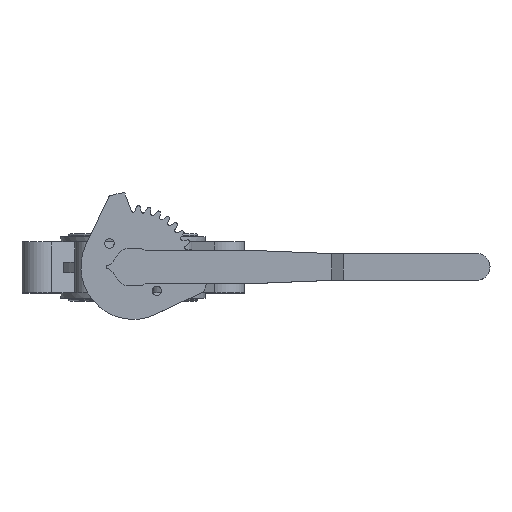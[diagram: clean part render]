
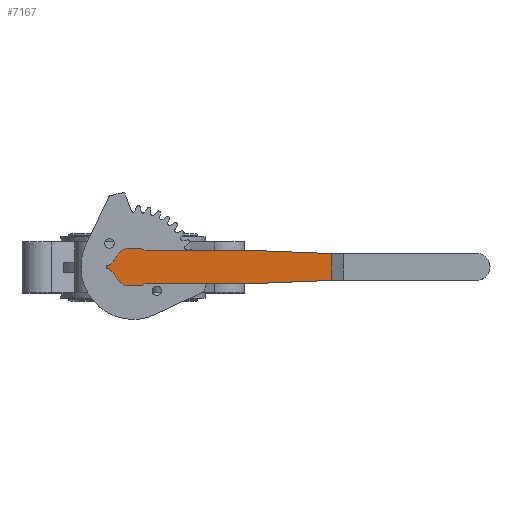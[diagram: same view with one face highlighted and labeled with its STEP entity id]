
A CAD part, top view. The second image highlights one B-rep face of the part: STEP entity #7167.
In plain terms, the highlighted planar face has unit normal (0, 0, 1) as drawn and (0, 0, -1) by its records, which use the part's own axes.
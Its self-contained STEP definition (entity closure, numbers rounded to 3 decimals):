
#53 = CARTESIAN_POINT ( 'NONE',  ( 148., 10., 5. ) ) ;
#168 = DIRECTION ( 'NONE',  ( -1., 0., 0. ) ) ;
#217 = ORIENTED_EDGE ( 'NONE', *, *, #10713, .F. ) ;
#367 = CARTESIAN_POINT ( 'NONE',  ( 148., -47.763, 5. ) ) ;
#373 = VERTEX_POINT ( 'NONE', #4630 ) ;
#485 = CARTESIAN_POINT ( 'NONE',  ( -5.385, -14., 5. ) ) ;
#510 = LINE ( 'NONE', #5273, #4837 ) ;
#619 = DIRECTION ( 'NONE',  ( -1., 0., 0. ) ) ;
#633 = ORIENTED_EDGE ( 'NONE', *, *, #8905, .T. ) ;
#792 = ORIENTED_EDGE ( 'NONE', *, *, #11005, .F. ) ;
#1023 = CARTESIAN_POINT ( 'NONE',  ( 5.385, -14., 5. ) ) ;
#1070 = AXIS2_PLACEMENT_3D ( 'NONE', #8643, #10267, #4266 ) ;
#1124 = VECTOR ( 'NONE', #5857, 1000. ) ;
#1132 = EDGE_CURVE ( 'NONE', #8645, #8624, #3430, .T. ) ;
#1263 = ORIENTED_EDGE ( 'NONE', *, *, #6951, .T. ) ;
#1298 = CARTESIAN_POINT ( 'NONE',  ( 5.385, 14., 5. ) ) ;
#1369 = EDGE_CURVE ( 'NONE', #5910, #11159, #5741, .T. ) ;
#1455 = DIRECTION ( 'NONE',  ( -1., 0., 0. ) ) ;
#1497 = CARTESIAN_POINT ( 'NONE',  ( -3.816, 8.184, 5. ) ) ;
#1572 = CARTESIAN_POINT ( 'NONE',  ( -13.831, -5.805, 5. ) ) ;
#1586 = ORIENTED_EDGE ( 'NONE', *, *, #4187, .F. ) ;
#1674 = CARTESIAN_POINT ( 'NONE',  ( -19.423, 0.906, 5. ) ) ;
#1750 = PLANE ( 'NONE',  #1070 ) ;
#1787 = CIRCLE ( 'NONE', #9656, 1. ) ;
#1790 = DIRECTION ( 'NONE',  ( 0., 0., -1. ) ) ;
#1941 = DIRECTION ( 'NONE',  ( 0., 0., -1. ) ) ;
#2009 = CARTESIAN_POINT ( 'NONE',  ( -5.385, 14., 5. ) ) ;
#2118 = DIRECTION ( 'NONE',  ( -1., 0., 0. ) ) ;
#2151 = CARTESIAN_POINT ( 'NONE',  ( 0.636, -15.895, 5. ) ) ;
#2173 = VECTOR ( 'NONE', #3508, 1000. ) ;
#2227 = VECTOR ( 'NONE', #10781, 1000. ) ;
#2375 = ORIENTED_EDGE ( 'NONE', *, *, #1369, .T. ) ;
#2611 = AXIS2_PLACEMENT_3D ( 'NONE', #6532, #7272, #2118 ) ;
#2660 = EDGE_CURVE ( 'NONE', #8473, #5528, #9887, .T. ) ;
#2670 = VERTEX_POINT ( 'NONE', #1298 ) ;
#2774 = CARTESIAN_POINT ( 'NONE',  ( 0., -14., 5. ) ) ;
#2804 = CIRCLE ( 'NONE', #9266, 15. ) ;
#3017 = EDGE_CURVE ( 'NONE', #4525, #373, #7308, .T. ) ;
#3053 = LINE ( 'NONE', #2151, #2227 ) ;
#3166 = VERTEX_POINT ( 'NONE', #485 ) ;
#3225 = CARTESIAN_POINT ( 'NONE',  ( -3.816, -8.184, 5. ) ) ;
#3228 = DIRECTION ( 'NONE',  ( -1., 0., 0. ) ) ;
#3331 = LINE ( 'NONE', #10489, #9161 ) ;
#3430 = LINE ( 'NONE', #8455, #1124 ) ;
#3433 = ORIENTED_EDGE ( 'NONE', *, *, #3017, .T. ) ;
#3508 = DIRECTION ( 'NONE',  ( -0.906, -0.423, 0. ) ) ;
#3837 = ORIENTED_EDGE ( 'NONE', *, *, #3883, .T. ) ;
#3883 = EDGE_CURVE ( 'NONE', #11159, #3166, #7051, .T. ) ;
#3969 = CARTESIAN_POINT ( 'NONE',  ( -13.831, 5.805, 5. ) ) ;
#4164 = DIRECTION ( 'NONE',  ( 0., 0., -1. ) ) ;
#4171 = ORIENTED_EDGE ( 'NONE', *, *, #8830, .T. ) ;
#4187 = EDGE_CURVE ( 'NONE', #9558, #5920, #9381, .T. ) ;
#4217 = AXIS2_PLACEMENT_3D ( 'NONE', #4432, #10492, #8800 ) ;
#4266 = DIRECTION ( 'NONE',  ( -1., 0., 0. ) ) ;
#4409 = AXIS2_PLACEMENT_3D ( 'NONE', #9377, #4164, #6793 ) ;
#4432 = CARTESIAN_POINT ( 'NONE',  ( -21.208, 8.901, 5. ) ) ;
#4492 = CARTESIAN_POINT ( 'NONE',  ( 9., -12., 5. ) ) ;
#4525 = VERTEX_POINT ( 'NONE', #53 ) ;
#4543 = DIRECTION ( 'NONE',  ( -1., 0., 0. ) ) ;
#4630 = CARTESIAN_POINT ( 'NONE',  ( 148., -10., 5. ) ) ;
#4735 = VECTOR ( 'NONE', #4543, 1000. ) ;
#4837 = VECTOR ( 'NONE', #10443, 1000. ) ;
#4854 = VERTEX_POINT ( 'NONE', #10221 ) ;
#4909 = AXIS2_PLACEMENT_3D ( 'NONE', #9337, #6711, #619 ) ;
#4921 = CARTESIAN_POINT ( 'NONE',  ( -19., 0., 5. ) ) ;
#5182 = AXIS2_PLACEMENT_3D ( 'NONE', #6100, #1790, #7854 ) ;
#5273 = CARTESIAN_POINT ( 'NONE',  ( 0.636, 15.895, 5. ) ) ;
#5310 = DIRECTION ( 'NONE',  ( -1., 0., 0. ) ) ;
#5317 = CARTESIAN_POINT ( 'NONE',  ( 9., 12., 5. ) ) ;
#5479 = CARTESIAN_POINT ( 'NONE',  ( 0., 0., 5. ) ) ;
#5528 = VERTEX_POINT ( 'NONE', #2009 ) ;
#5703 = ORIENTED_EDGE ( 'NONE', *, *, #7790, .F. ) ;
#5741 = CIRCLE ( 'NONE', #4409, 15. ) ;
#5857 = DIRECTION ( 'NONE',  ( -1., 0., 0. ) ) ;
#5910 = VERTEX_POINT ( 'NONE', #4492 ) ;
#5920 = VERTEX_POINT ( 'NONE', #1674 ) ;
#6038 = ORIENTED_EDGE ( 'NONE', *, *, #10482, .T. ) ;
#6087 = EDGE_CURVE ( 'NONE', #3166, #8926, #2804, .T. ) ;
#6100 = CARTESIAN_POINT ( 'NONE',  ( -21.208, -8.901, 5. ) ) ;
#6313 = VERTEX_POINT ( 'NONE', #9303 ) ;
#6532 = CARTESIAN_POINT ( 'NONE',  ( 0., 0., 5. ) ) ;
#6711 = DIRECTION ( 'NONE',  ( 0., 0., -1. ) ) ;
#6793 = DIRECTION ( 'NONE',  ( -1., 0., 0. ) ) ;
#6951 = EDGE_CURVE ( 'NONE', #2670, #8624, #7570, .T. ) ;
#7051 = LINE ( 'NONE', #2774, #4735 ) ;
#7071 = CARTESIAN_POINT ( 'NONE',  ( 98., 12., 5. ) ) ;
#7167 = ADVANCED_FACE ( 'NONE', ( #9846 ), #1750, .T. ) ;
#7254 = DIRECTION ( 'NONE',  ( 0., -1., 0. ) ) ;
#7272 = DIRECTION ( 'NONE',  ( 0., 0., -1. ) ) ;
#7295 = EDGE_CURVE ( 'NONE', #4525, #8645, #510, .T. ) ;
#7308 = LINE ( 'NONE', #367, #10741 ) ;
#7570 = CIRCLE ( 'NONE', #4909, 15. ) ;
#7614 = CARTESIAN_POINT ( 'NONE',  ( -17.827, 1.65, 5. ) ) ;
#7790 = EDGE_CURVE ( 'NONE', #2670, #5528, #3331, .T. ) ;
#7854 = DIRECTION ( 'NONE',  ( -1., 0., 0. ) ) ;
#7856 = ORIENTED_EDGE ( 'NONE', *, *, #8026, .T. ) ;
#7873 = ORIENTED_EDGE ( 'NONE', *, *, #6087, .T. ) ;
#8026 = EDGE_CURVE ( 'NONE', #373, #4854, #3053, .T. ) ;
#8347 = VECTOR ( 'NONE', #1455, 1000. ) ;
#8455 = CARTESIAN_POINT ( 'NONE',  ( 0., 12., 5. ) ) ;
#8473 = VERTEX_POINT ( 'NONE', #3969 ) ;
#8545 = ORIENTED_EDGE ( 'NONE', *, *, #1132, .F. ) ;
#8624 = VERTEX_POINT ( 'NONE', #5317 ) ;
#8643 = CARTESIAN_POINT ( 'NONE',  ( 0., 0., 5. ) ) ;
#8645 = VERTEX_POINT ( 'NONE', #7071 ) ;
#8735 = LINE ( 'NONE', #11050, #8347 ) ;
#8783 = VERTEX_POINT ( 'NONE', #10848 ) ;
#8800 = DIRECTION ( 'NONE',  ( -1., 0., 0. ) ) ;
#8830 = EDGE_CURVE ( 'NONE', #4854, #5910, #8735, .T. ) ;
#8905 = EDGE_CURVE ( 'NONE', #6313, #8783, #8993, .T. ) ;
#8926 = VERTEX_POINT ( 'NONE', #1572 ) ;
#8993 = LINE ( 'NONE', #3225, #10087 ) ;
#9161 = VECTOR ( 'NONE', #5310, 1000. ) ;
#9266 = AXIS2_PLACEMENT_3D ( 'NONE', #5479, #1941, #168 ) ;
#9290 = DIRECTION ( 'NONE',  ( -0.906, 0.423, 0. ) ) ;
#9303 = CARTESIAN_POINT ( 'NONE',  ( -17.827, -1.65, 5. ) ) ;
#9337 = CARTESIAN_POINT ( 'NONE',  ( 0., 0., 5. ) ) ;
#9377 = CARTESIAN_POINT ( 'NONE',  ( 0., 0., 5. ) ) ;
#9381 = LINE ( 'NONE', #1497, #2173 ) ;
#9385 = CIRCLE ( 'NONE', #5182, 8. ) ;
#9558 = VERTEX_POINT ( 'NONE', #7614 ) ;
#9656 = AXIS2_PLACEMENT_3D ( 'NONE', #4921, #10083, #3228 ) ;
#9773 = CIRCLE ( 'NONE', #4217, 8. ) ;
#9846 = FACE_OUTER_BOUND ( 'NONE', #10648, .T. ) ;
#9852 = ORIENTED_EDGE ( 'NONE', *, *, #7295, .F. ) ;
#9887 = CIRCLE ( 'NONE', #2611, 15. ) ;
#10083 = DIRECTION ( 'NONE',  ( 0., 0., 1. ) ) ;
#10087 = VECTOR ( 'NONE', #9290, 1000. ) ;
#10221 = CARTESIAN_POINT ( 'NONE',  ( 98., -12., 5. ) ) ;
#10267 = DIRECTION ( 'NONE',  ( 0., 0., -1. ) ) ;
#10443 = DIRECTION ( 'NONE',  ( -0.999, 0.04, 0. ) ) ;
#10482 = EDGE_CURVE ( 'NONE', #9558, #8473, #9773, .T. ) ;
#10489 = CARTESIAN_POINT ( 'NONE',  ( 0., 14., 5. ) ) ;
#10492 = DIRECTION ( 'NONE',  ( 0., 0., 1. ) ) ;
#10648 = EDGE_LOOP ( 'NONE', ( #7856, #4171, #2375, #3837, #7873, #792, #633, #217, #1586, #6038, #10810, #5703, #1263, #8545, #9852, #3433 ) ) ;
#10713 = EDGE_CURVE ( 'NONE', #5920, #8783, #1787, .T. ) ;
#10741 = VECTOR ( 'NONE', #7254, 1000. ) ;
#10781 = DIRECTION ( 'NONE',  ( -0.999, -0.04, 0. ) ) ;
#10810 = ORIENTED_EDGE ( 'NONE', *, *, #2660, .T. ) ;
#10848 = CARTESIAN_POINT ( 'NONE',  ( -19.423, -0.906, 5. ) ) ;
#11005 = EDGE_CURVE ( 'NONE', #6313, #8926, #9385, .T. ) ;
#11050 = CARTESIAN_POINT ( 'NONE',  ( 0., -12., 5. ) ) ;
#11159 = VERTEX_POINT ( 'NONE', #1023 ) ;
